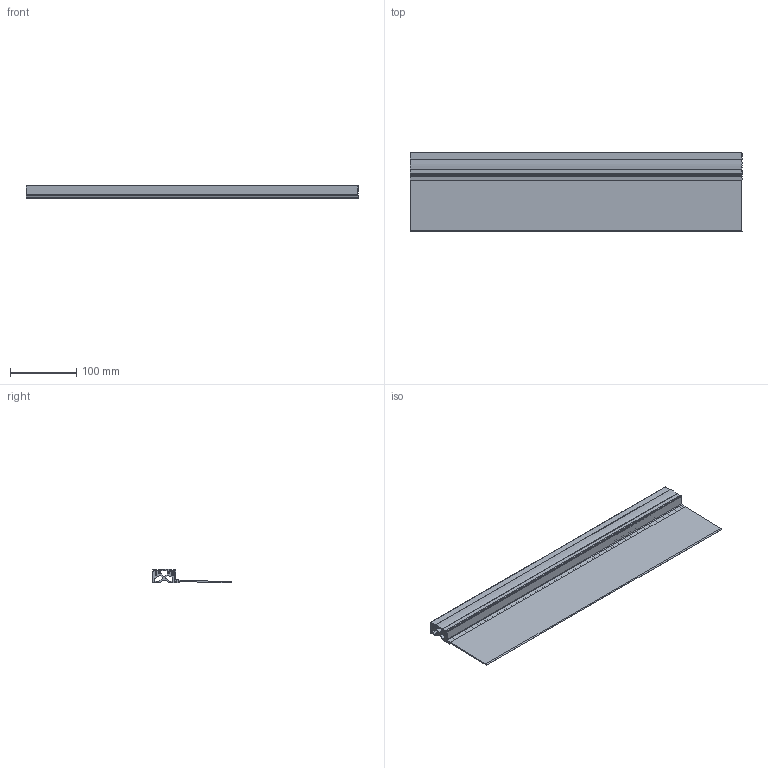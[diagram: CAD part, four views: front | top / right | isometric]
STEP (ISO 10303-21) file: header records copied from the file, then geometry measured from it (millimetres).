
FILE_DESCRIPTION(('FreeCAD Model'),'2;1');
FILE_NAME('Open CASCADE Shape Model','2024-10-24T10:43:17',('Author'),( ''),'Open CASCADE STEP processor 7.6','FreeCAD','Unknown');
FILE_SCHEMA(('AUTOMOTIVE_DESIGN { 1 0 10303 214 1 1 1 1 }'));
Length unit declared in the file: millimetre
Products named in the file (5): _74_3D001; _74_3D; _74_3D003; _74_3D002; _74_3D004
Bounding box: 500 x 118.8 x 20.49 mm (x, y, z)
Volume: 315458.6 mm3; surface area: 285949.6 mm2
Topology: 5 solids, 5 shells, 284 faces, 822 edges, 548 vertices
Faces by surface type: bspline 284
Entity records: 25444 total; most frequent: CARTESIAN_POINT 12807, ORIENTED_EDGE 1644, PCURVE 1644, DEFINITIONAL_REPRESENTATION 1644, DIRECTION 1104, LINE 1102, VECTOR 1102, B_SPLINE_CURVE_WITH_KNOTS 1086
